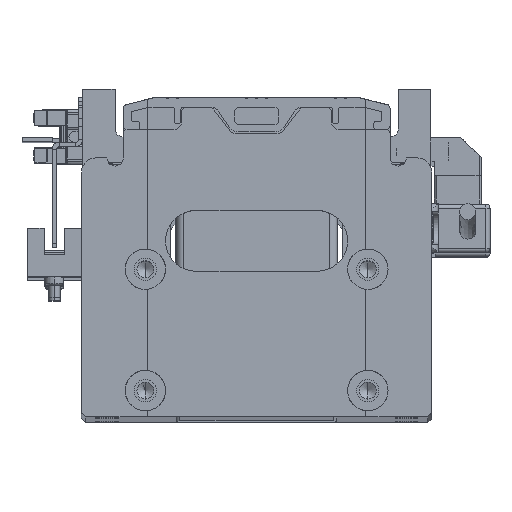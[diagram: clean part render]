
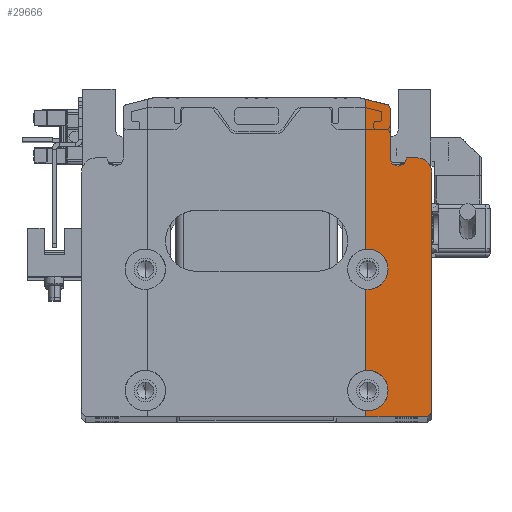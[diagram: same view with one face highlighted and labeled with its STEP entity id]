
A CAD part, top view. The second image highlights one B-rep face of the part: STEP entity #29666.
In plain terms, the highlighted planar face has unit normal (0, 0, 1).
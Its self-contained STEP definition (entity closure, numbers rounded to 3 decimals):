
#208 = DIRECTION ( 'NONE',  ( 0., 1., 0. ) ) ;
#1067 = LINE ( 'NONE', #16917, #26438 ) ;
#1233 = CARTESIAN_POINT ( 'NONE',  ( 27., 39.5, 12.5 ) ) ;
#1308 = CARTESIAN_POINT ( 'NONE',  ( 32.5, -3., 12.5 ) ) ;
#1847 = DIRECTION ( 'NONE',  ( -1., 0., 0. ) ) ;
#2485 = DIRECTION ( 'NONE',  ( 0., 0., 1. ) ) ;
#2557 = LINE ( 'NONE', #13299, #40343 ) ;
#2907 = DIRECTION ( 'NONE',  ( 0., 1., 0. ) ) ;
#3147 = ORIENTED_EDGE ( 'NONE', *, *, #13394, .T. ) ;
#3548 = CARTESIAN_POINT ( 'NONE',  ( 43.3, 21., 12.5 ) ) ;
#3598 = VERTEX_POINT ( 'NONE', #21163 ) ;
#3653 = ORIENTED_EDGE ( 'NONE', *, *, #13239, .T. ) ;
#3802 = DIRECTION ( 'NONE',  ( 0.707, 0.707, 0. ) ) ;
#4072 = CARTESIAN_POINT ( 'NONE',  ( 32., 36.719, 12.5 ) ) ;
#4182 = CARTESIAN_POINT ( 'NONE',  ( 43.3, -38.5, 12.5 ) ) ;
#4428 = DIRECTION ( 'NONE',  ( -1., 0., 0. ) ) ;
#4543 = DIRECTION ( 'NONE',  ( -1., 0., 0. ) ) ;
#4813 = ORIENTED_EDGE ( 'NONE', *, *, #6575, .T. ) ;
#5060 = DIRECTION ( 'NONE',  ( 0., -1., 0. ) ) ;
#6539 = CARTESIAN_POINT ( 'NONE',  ( 27., -28.025, 12.5 ) ) ;
#6575 = EDGE_CURVE ( 'NONE', #35940, #43480, #29058, .T. ) ;
#7151 = VERTEX_POINT ( 'NONE', #42202 ) ;
#7379 = EDGE_CURVE ( 'NONE', #33534, #3598, #14539, .T. ) ;
#8239 = CIRCLE ( 'NONE', #38581, 5. ) ;
#9905 = VECTOR ( 'NONE', #2907, 1000. ) ;
#10195 = VERTEX_POINT ( 'NONE', #29559 ) ;
#10628 = VECTOR ( 'NONE', #44548, 1000. ) ;
#10816 = DIRECTION ( 'NONE',  ( -1., 0., 0. ) ) ;
#11106 = ORIENTED_EDGE ( 'NONE', *, *, #7379, .T. ) ;
#11365 = VERTEX_POINT ( 'NONE', #51866 ) ;
#11388 = DIRECTION ( 'NONE',  ( -1., 0., 0. ) ) ;
#11616 = CARTESIAN_POINT ( 'NONE',  ( 43.3, -38.5, 12.5 ) ) ;
#11730 = EDGE_CURVE ( 'NONE', #37966, #43381, #43816, .T. ) ;
#12023 = ORIENTED_EDGE ( 'NONE', *, *, #21814, .T. ) ;
#12093 = CARTESIAN_POINT ( 'NONE',  ( 27., -7.975, 12.5 ) ) ;
#12753 = CIRCLE ( 'NONE', #28051, 1. ) ;
#13082 = CARTESIAN_POINT ( 'NONE',  ( 27.5, -3., 12.5 ) ) ;
#13239 = EDGE_CURVE ( 'NONE', #43381, #44963, #33762, .T. ) ;
#13299 = CARTESIAN_POINT ( 'NONE',  ( 27., 39.5, 12.5 ) ) ;
#13394 = EDGE_CURVE ( 'NONE', #37529, #25474, #2557, .T. ) ;
#13429 = CARTESIAN_POINT ( 'NONE',  ( 27., -37.975, 12.5 ) ) ;
#13435 = CARTESIAN_POINT ( 'NONE',  ( 27., 39.5, 12.5 ) ) ;
#14502 = VECTOR ( 'NONE', #5060, 1000. ) ;
#14539 = LINE ( 'NONE', #35557, #10628 ) ;
#14761 = EDGE_CURVE ( 'NONE', #48282, #37966, #1067, .T. ) ;
#15163 = ORIENTED_EDGE ( 'NONE', *, *, #38705, .T. ) ;
#16917 = CARTESIAN_POINT ( 'NONE',  ( 33., 0., 12.5 ) ) ;
#17029 = DIRECTION ( 'NONE',  ( -1., 0., 0. ) ) ;
#18525 = DIRECTION ( 'NONE',  ( 0., 0., -1. ) ) ;
#19207 = ORIENTED_EDGE ( 'NONE', *, *, #45003, .T. ) ;
#20107 = CIRCLE ( 'NONE', #44936, 5. ) ;
#20303 = CARTESIAN_POINT ( 'NONE',  ( 39.8, 24.5, 12.5 ) ) ;
#20362 = EDGE_CURVE ( 'NONE', #25474, #10195, #8239, .T. ) ;
#20515 = CARTESIAN_POINT ( 'NONE',  ( 26., 38.219, 12.5 ) ) ;
#21163 = CARTESIAN_POINT ( 'NONE',  ( 42.3, -39.5, 12.5 ) ) ;
#21435 = DIRECTION ( 'NONE',  ( 0., -1., 0. ) ) ;
#21554 = EDGE_LOOP ( 'NONE', ( #47814, #49367, #3653, #19207, #24368, #4813, #49958, #3147, #25816, #42462, #28759, #11106, #12023, #15163, #42275, #41239, #22733 ) ) ;
#21602 = CIRCLE ( 'NONE', #52369, 3.5 ) ;
#21814 = EDGE_CURVE ( 'NONE', #3598, #28295, #42572, .T. ) ;
#21834 = DIRECTION ( 'NONE',  ( 0., -1., 0. ) ) ;
#22733 = ORIENTED_EDGE ( 'NONE', *, *, #27339, .T. ) ;
#22863 = VERTEX_POINT ( 'NONE', #3548 ) ;
#23759 = CARTESIAN_POINT ( 'NONE',  ( 35., 24.5, 12.5 ) ) ;
#23947 = DIRECTION ( 'NONE',  ( 0., 0., -1. ) ) ;
#24368 = ORIENTED_EDGE ( 'NONE', *, *, #42399, .T. ) ;
#24390 = EDGE_CURVE ( 'NONE', #52553, #7151, #52118, .T. ) ;
#24677 = DIRECTION ( 'NONE',  ( 0., 0., -1. ) ) ;
#25327 = CARTESIAN_POINT ( 'NONE',  ( 32.243, 37.689, 12.5 ) ) ;
#25474 = VERTEX_POINT ( 'NONE', #6539 ) ;
#25500 = DIRECTION ( 'NONE',  ( 0., 0., 1. ) ) ;
#25548 = AXIS2_PLACEMENT_3D ( 'NONE', #4072, #25500, #4428 ) ;
#25563 = LINE ( 'NONE', #13435, #14502 ) ;
#25609 = DIRECTION ( 'NONE',  ( 0., 0., -1. ) ) ;
#25816 = ORIENTED_EDGE ( 'NONE', *, *, #20362, .T. ) ;
#26127 = DIRECTION ( 'NONE',  ( 0., 0., -1. ) ) ;
#26265 = AXIS2_PLACEMENT_3D ( 'NONE', #48404, #26995, #39413 ) ;
#26438 = VECTOR ( 'NONE', #208, 1000. ) ;
#26757 = DIRECTION ( 'NONE',  ( 0., 0., -1. ) ) ;
#26995 = DIRECTION ( 'NONE',  ( 0., 0., -1. ) ) ;
#27323 = DIRECTION ( 'NONE',  ( -1., 0., 0. ) ) ;
#27339 = EDGE_CURVE ( 'NONE', #7151, #48282, #30878, .T. ) ;
#27448 = LINE ( 'NONE', #1233, #36548 ) ;
#28051 = AXIS2_PLACEMENT_3D ( 'NONE', #20515, #24677, #17029 ) ;
#28295 = VERTEX_POINT ( 'NONE', #4182 ) ;
#28759 = ORIENTED_EDGE ( 'NONE', *, *, #41386, .T. ) ;
#28863 = VECTOR ( 'NONE', #3802, 1000. ) ;
#29058 = CIRCLE ( 'NONE', #48482, 5. ) ;
#29559 = CARTESIAN_POINT ( 'NONE',  ( 32.5, -33., 12.5 ) ) ;
#29666 = ADVANCED_FACE ( 'NONE', ( #31189 ), #31676, .F. ) ;
#29670 = EDGE_CURVE ( 'NONE', #10195, #47603, #20107, .T. ) ;
#30649 = CARTESIAN_POINT ( 'NONE',  ( 33., 36.719, 12.5 ) ) ;
#30878 = CIRCLE ( 'NONE', #45935, 2. ) ;
#30890 = AXIS2_PLACEMENT_3D ( 'NONE', #39357, #26757, #1847 ) ;
#31189 = FACE_OUTER_BOUND ( 'NONE', #21554, .T. ) ;
#31676 = PLANE ( 'NONE',  #30890 ) ;
#31893 = VECTOR ( 'NONE', #36536, 1000. ) ;
#33349 = CARTESIAN_POINT ( 'NONE',  ( 27., -39.5, 12.5 ) ) ;
#33534 = VERTEX_POINT ( 'NONE', #33349 ) ;
#33762 = LINE ( 'NONE', #37932, #47559 ) ;
#35354 = EDGE_CURVE ( 'NONE', #43480, #37529, #39674, .T. ) ;
#35557 = CARTESIAN_POINT ( 'NONE',  ( 43.3, -39.5, 12.5 ) ) ;
#35786 = CARTESIAN_POINT ( 'NONE',  ( 39.8, 21., 12.5 ) ) ;
#35940 = VERTEX_POINT ( 'NONE', #36802 ) ;
#36536 = DIRECTION ( 'NONE',  ( -1., 0., 0. ) ) ;
#36548 = VECTOR ( 'NONE', #21435, 1000. ) ;
#36776 = CARTESIAN_POINT ( 'NONE',  ( 43.3, 39.5, 12.5 ) ) ;
#36802 = CARTESIAN_POINT ( 'NONE',  ( 27., 1.975, 12.5 ) ) ;
#37529 = VERTEX_POINT ( 'NONE', #12093 ) ;
#37932 = CARTESIAN_POINT ( 'NONE',  ( 10.765, 43.059, 12.5 ) ) ;
#37966 = VERTEX_POINT ( 'NONE', #30649 ) ;
#38581 = AXIS2_PLACEMENT_3D ( 'NONE', #50641, #26127, #42254 ) ;
#38705 = EDGE_CURVE ( 'NONE', #28295, #22863, #52366, .T. ) ;
#39357 = CARTESIAN_POINT ( 'NONE',  ( 0., 0., 12.5 ) ) ;
#39413 = DIRECTION ( 'NONE',  ( -1., 0., 0. ) ) ;
#39674 = CIRCLE ( 'NONE', #26265, 5. ) ;
#40343 = VECTOR ( 'NONE', #21834, 1000. ) ;
#40383 = CARTESIAN_POINT ( 'NONE',  ( 0., 24.5, 12.5 ) ) ;
#41239 = ORIENTED_EDGE ( 'NONE', *, *, #24390, .T. ) ;
#41386 = EDGE_CURVE ( 'NONE', #47603, #33534, #25563, .T. ) ;
#41685 = CARTESIAN_POINT ( 'NONE',  ( 26.243, 39.189, 12.5 ) ) ;
#42202 = CARTESIAN_POINT ( 'NONE',  ( 37., 24.5, 12.5 ) ) ;
#42254 = DIRECTION ( 'NONE',  ( -1., 0., 0. ) ) ;
#42275 = ORIENTED_EDGE ( 'NONE', *, *, #46882, .T. ) ;
#42399 = EDGE_CURVE ( 'NONE', #11365, #35940, #27448, .T. ) ;
#42462 = ORIENTED_EDGE ( 'NONE', *, *, #29670, .T. ) ;
#42572 = LINE ( 'NONE', #11616, #28863 ) ;
#43381 = VERTEX_POINT ( 'NONE', #25327 ) ;
#43480 = VERTEX_POINT ( 'NONE', #1308 ) ;
#43592 = CARTESIAN_POINT ( 'NONE',  ( 27.5, -33., 12.5 ) ) ;
#43816 = CIRCLE ( 'NONE', #25548, 1. ) ;
#44548 = DIRECTION ( 'NONE',  ( 1., 0., 0. ) ) ;
#44936 = AXIS2_PLACEMENT_3D ( 'NONE', #43592, #18525, #27323 ) ;
#44963 = VERTEX_POINT ( 'NONE', #41685 ) ;
#45003 = EDGE_CURVE ( 'NONE', #44963, #11365, #12753, .T. ) ;
#45665 = DIRECTION ( 'NONE',  ( -0.97, 0.243, 0. ) ) ;
#45935 = AXIS2_PLACEMENT_3D ( 'NONE', #23759, #23947, #11388 ) ;
#46882 = EDGE_CURVE ( 'NONE', #22863, #52553, #21602, .T. ) ;
#47559 = VECTOR ( 'NONE', #45665, 1000. ) ;
#47603 = VERTEX_POINT ( 'NONE', #13429 ) ;
#47814 = ORIENTED_EDGE ( 'NONE', *, *, #14761, .T. ) ;
#48282 = VERTEX_POINT ( 'NONE', #51332 ) ;
#48404 = CARTESIAN_POINT ( 'NONE',  ( 27.5, -3., 12.5 ) ) ;
#48482 = AXIS2_PLACEMENT_3D ( 'NONE', #13082, #25609, #4543 ) ;
#49367 = ORIENTED_EDGE ( 'NONE', *, *, #11730, .T. ) ;
#49958 = ORIENTED_EDGE ( 'NONE', *, *, #35354, .T. ) ;
#50641 = CARTESIAN_POINT ( 'NONE',  ( 27.5, -33., 12.5 ) ) ;
#51332 = CARTESIAN_POINT ( 'NONE',  ( 33., 24.5, 12.5 ) ) ;
#51866 = CARTESIAN_POINT ( 'NONE',  ( 27., 38.219, 12.5 ) ) ;
#52118 = LINE ( 'NONE', #40383, #31893 ) ;
#52366 = LINE ( 'NONE', #36776, #9905 ) ;
#52369 = AXIS2_PLACEMENT_3D ( 'NONE', #35786, #2485, #10816 ) ;
#52553 = VERTEX_POINT ( 'NONE', #20303 ) ;
